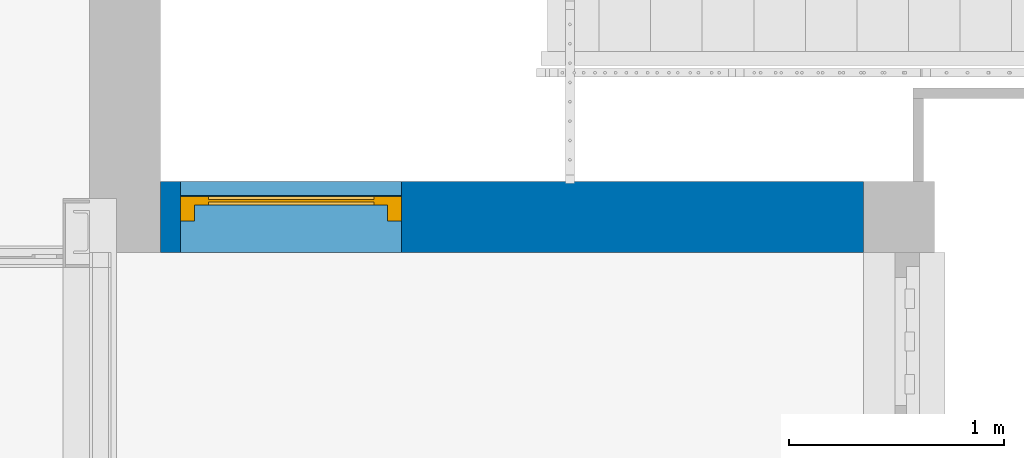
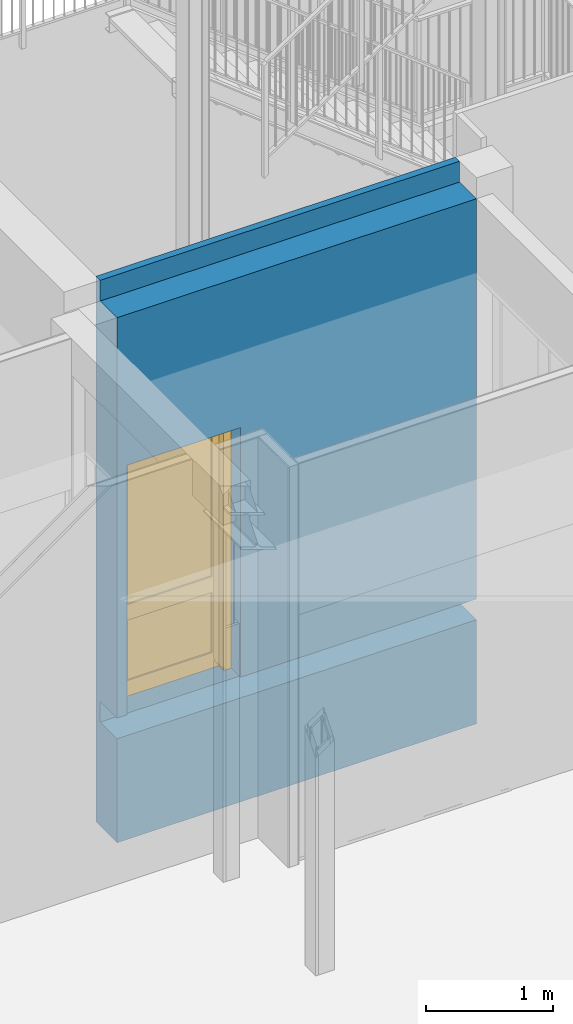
# One storey, part 75 of 135: 1 door, 1 wall, 1 opening.
"""IFC2X3 building model written with IfcOpenShell, lengths in millimetres."""

from ifc_helpers import new_model, entity, si_unit, converted_unit, derived_unit, money_unit, direction, frame, origin_with_axes, place, context, subcontext, project, spatial, faceted_brep, source, transform, mapped, material, type_object, type_shapes, element, fill, save


model = new_model("IFC2X3")

# Units and contexts
model_context = context("Model", 3, precision=0.01, world=origin_with_axes(), true_north=direction((0.0, 1.0)))
body_context = subcontext(model_context, "Body", "Model", "MODEL_VIEW")
ifc_project = project(units=[si_unit("LENGTHUNIT", "METRE", prefix="MILLI"), si_unit("AREAUNIT", "SQUARE_METRE"), si_unit("VOLUMEUNIT", "CUBIC_METRE"), converted_unit("PLANEANGLEUNIT", "DEGREE", entity("IfcPlaneAngleMeasure", 0.0174532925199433), si_unit("PLANEANGLEUNIT", "RADIAN"), dimensions=[0, 0, 0, 0, 0, 0, 0]), money_unit("EUR"), converted_unit("TIMEUNIT", "Year", entity("IfcTimeMeasure", 31557600.0), si_unit("TIMEUNIT", "SECOND"), dimensions=[0, 0, 1, 0, 0, 0, 0]), si_unit("MASSUNIT", "GRAM", prefix="KILO"), si_unit("THERMODYNAMICTEMPERATUREUNIT", "DEGREE_CELSIUS"), si_unit("LUMINOUSINTENSITYUNIT", "LUMEN"), si_unit("ENERGYUNIT", "JOULE", prefix="MEGA"), derived_unit("THERMALCONDUCTANCEUNIT", [(si_unit("POWERUNIT", "WATT"), 1), (si_unit("LENGTHUNIT", "METRE"), -1), (si_unit("THERMODYNAMICTEMPERATUREUNIT", "KELVIN"), -1)]), derived_unit("SPECIFICHEATCAPACITYUNIT", [(si_unit("ENERGYUNIT", "JOULE"), 1), (si_unit("MASSUNIT", "GRAM", prefix="KILO"), -1), (si_unit("THERMODYNAMICTEMPERATUREUNIT", "KELVIN"), -1)]), derived_unit("MASSDENSITYUNIT", [(si_unit("MASSUNIT", "GRAM", prefix="KILO"), 1), (si_unit("VOLUMEUNIT", "CUBIC_METRE"), -1)])], contexts=[model_context])

# Site, building, storey
site_placement = place(None, origin_with_axes())
site = spatial("IfcSite", under=ifc_project, at=site_placement, Name="Site", CompositionType="ELEMENT")
building_placement = place(site_placement, origin_with_axes())
building = spatial("IfcBuilding", under=site, at=building_placement, Name="Naam gebouw", CompositionType="ELEMENT")
storey_placement = place(building_placement, origin_with_axes())
storey = spatial("IfcBuildingStorey", under=building, at=storey_placement, Name="Begane grond N", CompositionType="ELEMENT", Elevation=0.0)

# Wall, opening, door
ifc_material = material(Name="ALG - CONSTRUCTIEF")
wall_type = type_object("IfcWallType", Name="ALG - CONSTRUCTIEF 330", PredefinedType="NOTDEFINED")
wall_placement = place(storey_placement, frame((57599.99999999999, 20655.9124251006, -1200.0), z_axis=(0.0, 0.0, 1.0), x_axis=(-1.0, 0.0, 0.0)))
wall = element("IfcWall", 1, at=wall_placement, inside=storey, type_object=wall_type, material=ifc_material, Name="_Wand-x", context=body_context, shape_type="Brep", body=[
    faceted_brep([(2148.07459316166, 70.00000000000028, 1200.0), (2148.07459316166, 329.9999999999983, 1200.0), (2148.07459316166, 330.0000000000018, 3600.0), (2148.07459316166, 0.0, 3600.0), (2148.07459316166, 0.0, 1200.0), (2148.07459316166, 64.99999999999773, 1200.0), (0.0, 64.99999999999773, 1200.0), (0.0, 329.9999999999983, 1200.0), (0.0, 330.0000000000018, 5050.000000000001), (3269.999999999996, 329.9999999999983, 5050.000000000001), (3269.999999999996, 329.9999999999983, 1200.0), (3178.074593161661, 329.9999999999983, 1200.0), (3178.074593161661, 330.0000000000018, 3600.0), (3178.074593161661, 0.0, 3600.0), (3269.999999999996, 0.0, 5250.000000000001), (0.0, 0.0, 5250.000000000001), (0.0, 0.0, 0.0), (3269.999999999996, 0.0, 0.0), (3178.074593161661, 0.0, 1200.0), (3178.074593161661, 64.99999999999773, 1200.0), (3269.999999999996, 64.99999999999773, 1000.0), (0.0, 64.99999999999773, 1000.0), (3269.999999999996, 64.99999999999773, 1200.0), (0.0, 329.9999999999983, 1000.0), (0.0, 329.9999999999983, 0.0), (0.0, 64.99999999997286, 5250.000000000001), (0.0, 64.99999999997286, 5050.000000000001), (3269.999999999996, 64.99999999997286, 5050.000000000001), (3269.999999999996, 329.9999999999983, 0.0), (3269.999999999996, 329.9999999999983, 999.9999999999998), (3269.999999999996, 64.99999999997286, 5250.000000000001), (3178.074593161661, 70.00000000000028, 1200.0)], [[[0, 1, 2, 3, 4, 5]], [[1, 0, 5, 6, 7]], [[2, 1, 7, 8, 9, 10, 11, 12]], [[3, 2, 12, 13]], [[14, 15, 16, 17], [4, 3, 13, 18]], [[18, 19, 5, 4]], [[20, 21, 6, 5, 19, 22]], [[6, 21, 23, 24, 16, 15, 25, 26, 8, 7]], [[26, 27, 9, 8]], [[17, 28, 29, 20, 22, 10, 9, 27, 30, 14]], [[31, 11, 10, 22, 19]], [[12, 11, 31, 19, 18, 13]], [[25, 15, 14, 30]], [[17, 16, 24, 28]], [[21, 20, 29, 23]], [[29, 28, 24, 23]], [[25, 30, 27, 26]]]),
])
opening_placement = place(wall_placement, frame((2663.07459316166, 0.0, 1200.0), z_axis=(0.0, 0.0, 1.0), x_axis=(1.0, 0.0, 0.0)))
opening = element("IfcOpeningElement", 2, at=opening_placement, cuts=wall, Name="_Merk-007", context=body_context, shape_type="Brep", body=[
    faceted_brep([(515.0000000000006, 70.00000000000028, 0.0), (515.0000000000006, 70.00000000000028, 2400.0), (515.0000000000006, -1.000000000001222, 2400.0), (515.0000000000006, -1.000000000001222, 0.0), (515.0000000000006, 330.9999999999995, 0.0), (515.0000000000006, 330.9999999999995, 2400.0), (-515.0000000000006, 70.00000000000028, 2400.0), (-515.0000000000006, -1.000000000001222, 2400.0), (-515.0000000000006, 330.9999999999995, 2400.0), (-515.0000000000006, -1.000000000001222, 0.0), (-515.0000000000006, 70.00000000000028, 0.0), (-515.0000000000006, 330.9999999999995, 0.0)], [[[0, 1, 2, 3]], [[1, 0, 4, 5]], [[6, 7, 2, 1, 5, 8]], [[7, 9, 3, 2]], [[0, 3, 9, 10, 11, 4]], [[5, 4, 11, 8]], [[6, 10, 9, 7]], [[10, 6, 8, 11]]]),
])
door_style = type_object("IfcDoorStyle", Name="D1 26", ConstructionType="NOTDEFINED", OperationType="SINGLE_SWING_LEFT", ParameterTakesPrecedence=False, Sizeable=False)
shared_shape = source(origin_with_axes(), body_context, "Body", "Brep", [
    faceted_brep([(448.0, -40.0, 0.0), (448.0, -114.0, 0.0), (448.0, -114.0, 2333.0), (448.0, -39.99999999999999, 2333.0), (465.0, -40.0, 0.0), (465.0, 0.0, 0.0), (515.0, 0.0, 0.0), (515.0, -114.0, 0.0), (515.0, -114.0, 2333.0), (465.0, -40.0, 2333.0), (515.0, 0.0, 2333.0), (465.0, 0.0, 2333.0)], [[[0, 1, 2, 3]], [[4, 5, 6, 7, 1, 0]], [[1, 7, 8, 2]], [[9, 3, 2, 8, 10, 11]], [[9, 4, 0, 3]], [[11, 5, 4, 9]], [[11, 10, 6, 5]], [[6, 10, 8, 7]]]),
    faceted_brep([(-465.0, -40.0, 2333.0), (-465.0, 0.0, 2333.0), (-515.0, 0.0, 2333.0), (-515.0, -114.0, 2333.0), (-448.0, -114.0, 2333.0), (-448.0, -39.99999999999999, 2333.0), (-465.0, -40.0, 0.0), (-465.0, 0.0, 0.0), (-515.0, 0.0, 0.0), (-515.0, -114.0, 0.0), (-448.0, -114.0, 0.0), (-448.0, -40.0, 0.0)], [[[0, 1, 2, 3, 4, 5]], [[0, 6, 7, 1]], [[7, 8, 2, 1]], [[2, 8, 9, 3]], [[3, 9, 10, 4]], [[5, 4, 10, 11]], [[5, 11, 6, 0]], [[6, 11, 10, 9, 8, 7]]]),
    faceted_brep([(465.0, 0.0, 2350.0), (-465.0, 0.0, 2350.0), (-465.0, 0.0, 2333.0), (-515.0, 0.0, 2333.0), (-515.0, 0.0, 2400.0), (515.0, 0.0, 2400.0), (515.0, 0.0, 2333.0), (465.0, 0.0, 2333.0), (465.0, -40.0, 2350.0), (-465.0, -40.0, 2350.0), (-465.0, -40.0, 2333.0), (-448.0, -39.99999999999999, 2333.0), (-448.0, -114.0, 2333.0), (-515.0, -114.0, 2333.0), (-515.0, -114.0, 2400.0), (515.0, -114.0, 2400.0), (515.0, -114.0, 2333.0), (465.0, -40.0, 2333.0), (448.0, -114.0, 2333.0), (448.0, -39.99999999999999, 2333.0)], [[[0, 1, 2, 3, 4, 5, 6, 7]], [[0, 8, 9, 1]], [[1, 9, 10, 2]], [[10, 11, 12, 13, 3, 2]], [[4, 3, 13, 14]], [[5, 4, 14, 15]], [[6, 5, 15, 16]], [[17, 7, 6, 16, 18, 19]], [[7, 17, 8, 0]], [[10, 9, 8, 17, 19, 11]], [[19, 18, 12, 11]], [[12, 18, 16, 15, 14, 13]]]),
    faceted_brep([(-465.0000000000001, 0.0, 150.0), (-385.0000000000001, 0.0, 150.0), (-385.0000000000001, -40.00000000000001, 150.0), (-465.0000000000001, -40.00000000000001, 150.0), (-465.0000000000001, 0.0, 2240.0), (-385.0000000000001, 0.0, 2240.0), (-385.0000000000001, 0.0, 880.0), (-385.0000000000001, 0.0, 730.0000000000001), (-385.0000000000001, -40.00000000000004, 730.0000000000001), (-385.0000000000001, -40.00000000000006, 880.0), (-385.0000000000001, -40.00000000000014, 2240.0), (-465.0000000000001, -40.00000000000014, 2240.0)], [[[0, 1, 2, 3]], [[0, 4, 5, 6, 7, 1]], [[1, 7, 8, 2]], [[3, 2, 8, 9, 10, 11]], [[4, 0, 3, 11]], [[5, 4, 11, 10]], [[6, 5, 10, 9]], [[7, 6, 9, 8]]]),
    faceted_brep([(464.9999999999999, 0.0, 150.0), (464.9999999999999, 0.0, 2240.0), (464.9999999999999, -40.00000000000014, 2240.0), (464.9999999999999, -40.00000000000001, 150.0), (385.0, 0.0, 150.0), (385.0, 0.0, 730.0000000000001), (385.0, 0.0, 880.0), (385.0, 0.0, 2240.0), (385.0, -40.00000000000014, 2240.0), (385.0, -40.00000000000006, 880.0), (385.0, -40.00000000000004, 730.0000000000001), (385.0, -40.00000000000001, 150.0)], [[[0, 1, 2, 3]], [[0, 4, 5, 6, 7, 1]], [[1, 7, 8, 2]], [[3, 2, 8, 9, 10, 11]], [[4, 0, 3, 11]], [[5, 4, 11, 10]], [[6, 5, 10, 9]], [[7, 6, 9, 8]]]),
    faceted_brep([(-465.0000000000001, 0.0, 0.0), (464.9999999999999, 0.0, 0.0), (464.9999999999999, -40.0, 0.0), (-465.0000000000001, -40.0, 0.0), (-465.0000000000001, 0.0, 150.0), (-385.0000000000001, 0.0, 150.0), (385.0, 0.0, 150.0), (464.9999999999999, 0.0, 150.0), (464.9999999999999, -40.00000000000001, 150.0), (385.0, -40.00000000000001, 150.0), (-385.0000000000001, -40.00000000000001, 150.0), (-465.0000000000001, -40.00000000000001, 150.0)], [[[0, 1, 2, 3]], [[0, 4, 5, 6, 7, 1]], [[1, 7, 8, 2]], [[3, 2, 8, 9, 10, 11]], [[4, 0, 3, 11]], [[5, 4, 11, 10]], [[6, 5, 10, 9]], [[7, 6, 9, 8]]]),
    faceted_brep([(385.0, 0.0, 730.0000000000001), (385.0, 0.0, 880.0), (385.0, -40.0, 880.0), (385.0, -40.0, 730.0000000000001), (-385.0000000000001, 0.0, 730.0000000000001), (-385.0000000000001, 0.0, 880.0), (-385.0000000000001, -40.0, 880.0), (-385.0000000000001, -40.0, 730.0000000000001)], [[[0, 1, 2, 3]], [[0, 4, 5, 1]], [[1, 5, 6, 2]], [[3, 2, 6, 7]], [[4, 0, 3, 7]], [[5, 4, 7, 6]]]),
    faceted_brep([(-465.0000000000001, 0.0, 2350.0), (-465.0000000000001, 0.0, 2240.0), (-465.0000000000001, -40.00000000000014, 2240.0), (-465.0000000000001, -40.00000000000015, 2350.0), (464.9999999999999, 0.0, 2350.0), (464.9999999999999, 0.0, 2240.0), (385.0, 0.0, 2240.0), (-385.0000000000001, 0.0, 2240.0), (-385.0000000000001, -40.00000000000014, 2240.0), (385.0, -40.00000000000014, 2240.0), (464.9999999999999, -40.00000000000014, 2240.0), (464.9999999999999, -40.00000000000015, 2350.0)], [[[0, 1, 2, 3]], [[0, 4, 5, 6, 7, 1]], [[1, 7, 8, 2]], [[3, 2, 8, 9, 10, 11]], [[4, 0, 3, 11]], [[5, 4, 11, 10]], [[6, 5, 10, 9]], [[7, 6, 9, 8]]]),
    faceted_brep([(-385.0000000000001, -14.0, 150.0), (385.0, -14.0, 150.0), (385.0, -26.0, 150.0), (-385.0000000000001, -26.0, 150.0), (-385.0000000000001, -14.0, 730.0000000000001), (385.0, -14.0, 730.0000000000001), (385.0, -26.0, 730.0000000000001), (-385.0000000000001, -26.0, 730.0000000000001)], [[[0, 1, 2, 3]], [[0, 4, 5, 1]], [[1, 5, 6, 2]], [[3, 2, 6, 7]], [[4, 0, 3, 7]], [[5, 4, 7, 6]]]),
    faceted_brep([(-385.0000000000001, -14.0, 880.0), (385.0, -14.0, 880.0), (385.0, -26.0, 880.0), (-385.0000000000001, -26.0, 880.0), (-385.0000000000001, -14.0, 2240.0), (385.0, -14.0, 2240.0), (385.0, -26.0, 2240.0), (-385.0000000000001, -26.0, 2240.0)], [[[0, 1, 2, 3]], [[0, 4, 5, 1]], [[1, 5, 6, 2]], [[3, 2, 6, 7]], [[4, 0, 3, 7]], [[5, 4, 7, 6]]]),
])
type_shapes(door_style, [shared_shape])
door_placement = place(opening_placement, frame((515.0000000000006, 0.0, 0.0), z_axis=(0.0, 0.0, 1.0), x_axis=(-1.0, 0.0, 0.0)))
door = element("IfcDoor", 3, at=door_placement, inside=storey, type_object=door_style, Name="_Merk-007", ObjectType="DOOR", OverallHeight=2400.0, OverallWidth=1030.0, context=body_context, shape_type="MappedRepresentation", body=[
    mapped(shared_shape, transform((515.0000000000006, -70.00000000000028, 0.0))),
])
fill(opening, door)

save(model, "model.ifc")
